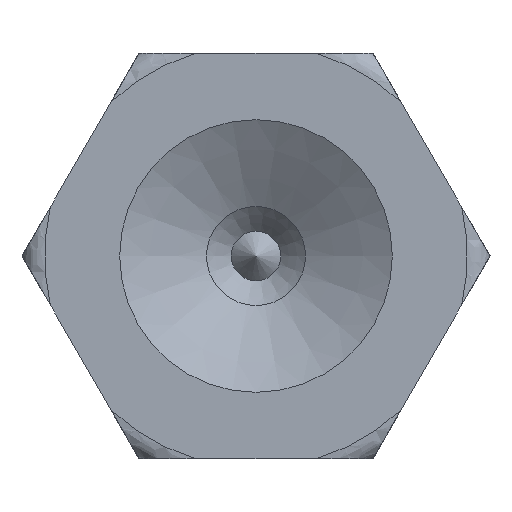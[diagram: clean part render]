
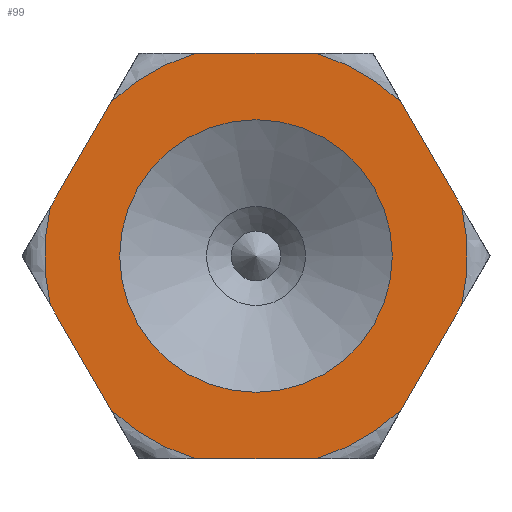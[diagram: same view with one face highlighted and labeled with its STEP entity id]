
A CAD part, left-side view. The second image highlights one B-rep face of the part: STEP entity #99.
In plain terms, the highlighted planar face has unit normal (-1, 0, 0).
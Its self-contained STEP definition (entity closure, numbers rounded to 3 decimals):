
#99 = ADVANCED_FACE( '', ( #174, #175 ), #176, .F. );
#174 = FACE_OUTER_BOUND( '', #260, .T. );
#175 = FACE_BOUND( '', #261, .T. );
#176 = PLANE( '', #262 );
#260 = EDGE_LOOP( '', ( #441, #442, #443, #444, #445, #446, #447, #448, #449, #450, #451, #452 ) );
#261 = EDGE_LOOP( '', ( #453 ) );
#262 = AXIS2_PLACEMENT_3D( '', #454, #455, #456 );
#441 = ORIENTED_EDGE( '', *, *, #587, .F. );
#442 = ORIENTED_EDGE( '', *, *, #588, .F. );
#443 = ORIENTED_EDGE( '', *, *, #537, .F. );
#444 = ORIENTED_EDGE( '', *, *, #559, .F. );
#445 = ORIENTED_EDGE( '', *, *, #589, .F. );
#446 = ORIENTED_EDGE( '', *, *, #554, .F. );
#447 = ORIENTED_EDGE( '', *, *, #545, .F. );
#448 = ORIENTED_EDGE( '', *, *, #555, .F. );
#449 = ORIENTED_EDGE( '', *, *, #552, .F. );
#450 = ORIENTED_EDGE( '', *, *, #590, .F. );
#451 = ORIENTED_EDGE( '', *, *, #570, .F. );
#452 = ORIENTED_EDGE( '', *, *, #591, .F. );
#453 = ORIENTED_EDGE( '', *, *, #557, .T. );
#454 = CARTESIAN_POINT( '', ( 0., 0., 0. ) );
#455 = DIRECTION( '', ( 1., 0., 0. ) );
#456 = DIRECTION( '', ( 0., 0., -1. ) );
#537 = EDGE_CURVE( '', #616, #604, #618, .T. );
#545 = EDGE_CURVE( '', #632, #620, #634, .T. );
#552 = EDGE_CURVE( '', #645, #635, #647, .T. );
#554 = EDGE_CURVE( '', #620, #648, #650, .T. );
#555 = EDGE_CURVE( '', #635, #632, #651, .T. );
#557 = EDGE_CURVE( '', #654, #654, #655, .T. );
#559 = EDGE_CURVE( '', #656, #616, #658, .T. );
#570 = EDGE_CURVE( '', #673, #676, #677, .T. );
#587 = EDGE_CURVE( '', #705, #706, #707, .T. );
#588 = EDGE_CURVE( '', #604, #705, #708, .T. );
#589 = EDGE_CURVE( '', #648, #656, #709, .T. );
#590 = EDGE_CURVE( '', #676, #645, #710, .T. );
#591 = EDGE_CURVE( '', #706, #673, #711, .T. );
#604 = VERTEX_POINT( '', #754 );
#616 = VERTEX_POINT( '', #808 );
#618 = LINE( '', #823, #824 );
#620 = VERTEX_POINT( '', #826 );
#632 = VERTEX_POINT( '', #880 );
#634 = LINE( '', #895, #896 );
#635 = VERTEX_POINT( '', #897 );
#645 = VERTEX_POINT( '', #948 );
#647 = LINE( '', #963, #964 );
#648 = VERTEX_POINT( '', #965 );
#650 = CIRCLE( '', #982, 14.089 );
#651 = CIRCLE( '', #983, 14.089 );
#654 = VERTEX_POINT( '', #986 );
#655 = CIRCLE( '', #987, 9.081 );
#656 = VERTEX_POINT( '', #988 );
#658 = CIRCLE( '', #1007, 14.089 );
#673 = VERTEX_POINT( '', #1025 );
#676 = VERTEX_POINT( '', #1043 );
#677 = LINE( '', #1044, #1045 );
#705 = VERTEX_POINT( '', #1106 );
#706 = VERTEX_POINT( '', #1107 );
#707 = LINE( '', #1108, #1109 );
#708 = CIRCLE( '', #1110, 14.089 );
#709 = LINE( '', #1111, #1112 );
#710 = CIRCLE( '', #1113, 14.089 );
#711 = CIRCLE( '', #1114, 14.089 );
#754 = CARTESIAN_POINT( '', ( 0., 13.706, -3.26 ) );
#808 = CARTESIAN_POINT( '', ( 0., 9.677, -10.24 ) );
#823 = CARTESIAN_POINT( '', ( 0., 7.794, -13.5 ) );
#824 = VECTOR( '', #1197, 1000. );
#826 = CARTESIAN_POINT( '', ( 0., -9.677, -10.24 ) );
#880 = CARTESIAN_POINT( '', ( 0., -13.706, -3.26 ) );
#895 = CARTESIAN_POINT( '', ( 0., -15.588, 0. ) );
#896 = VECTOR( '', #1201, 1000. );
#897 = CARTESIAN_POINT( '', ( 0., -13.706, 3.26 ) );
#948 = CARTESIAN_POINT( '', ( 0., -9.677, 10.24 ) );
#963 = CARTESIAN_POINT( '', ( 0., -7.794, 13.5 ) );
#964 = VECTOR( '', #1204, 1000. );
#965 = CARTESIAN_POINT( '', ( 0., -4.029, -13.5 ) );
#982 = AXIS2_PLACEMENT_3D( '', #1205, #1206, #1207 );
#983 = AXIS2_PLACEMENT_3D( '', #1208, #1209, #1210 );
#986 = CARTESIAN_POINT( '', ( 0., 9.081, 0. ) );
#987 = AXIS2_PLACEMENT_3D( '', #1214, #1215, #1216 );
#988 = CARTESIAN_POINT( '', ( 0., 4.029, -13.5 ) );
#1007 = AXIS2_PLACEMENT_3D( '', #1217, #1218, #1219 );
#1025 = CARTESIAN_POINT( '', ( 0., 4.029, 13.5 ) );
#1043 = CARTESIAN_POINT( '', ( 0., -4.029, 13.5 ) );
#1044 = CARTESIAN_POINT( '', ( 0., 7.794, 13.5 ) );
#1045 = VECTOR( '', #1241, 1000. );
#1106 = CARTESIAN_POINT( '', ( 0., 13.706, 3.26 ) );
#1107 = CARTESIAN_POINT( '', ( 0., 9.677, 10.24 ) );
#1108 = CARTESIAN_POINT( '', ( 0., 15.588, 0. ) );
#1109 = VECTOR( '', #1279, 1000. );
#1110 = AXIS2_PLACEMENT_3D( '', #1280, #1281, #1282 );
#1111 = CARTESIAN_POINT( '', ( 0., -7.794, -13.5 ) );
#1112 = VECTOR( '', #1283, 1000. );
#1113 = AXIS2_PLACEMENT_3D( '', #1284, #1285, #1286 );
#1114 = AXIS2_PLACEMENT_3D( '', #1287, #1288, #1289 );
#1197 = DIRECTION( '', ( 0., 0.5, 0.866 ) );
#1201 = DIRECTION( '', ( 0., 0.5, -0.866 ) );
#1204 = DIRECTION( '', ( 0., -0.5, -0.866 ) );
#1205 = CARTESIAN_POINT( '', ( 0., 0., 0. ) );
#1206 = DIRECTION( '', ( 1., 0., 0. ) );
#1207 = DIRECTION( '', ( 0., 0., -1. ) );
#1208 = CARTESIAN_POINT( '', ( 0., 0., 0. ) );
#1209 = DIRECTION( '', ( 1., 0., 0. ) );
#1210 = DIRECTION( '', ( 0., 0., -1. ) );
#1214 = CARTESIAN_POINT( '', ( 0., 0., 0. ) );
#1215 = DIRECTION( '', ( 1., 0., 0. ) );
#1216 = DIRECTION( '', ( 0., 1., 0. ) );
#1217 = CARTESIAN_POINT( '', ( 0., 0., 0. ) );
#1218 = DIRECTION( '', ( 1., 0., 0. ) );
#1219 = DIRECTION( '', ( 0., 0., -1. ) );
#1241 = DIRECTION( '', ( 0., -1., 0. ) );
#1279 = DIRECTION( '', ( 0., -0.5, 0.866 ) );
#1280 = CARTESIAN_POINT( '', ( 0., 0., 0. ) );
#1281 = DIRECTION( '', ( 1., 0., 0. ) );
#1282 = DIRECTION( '', ( 0., 0., -1. ) );
#1283 = DIRECTION( '', ( 0., 1., 0. ) );
#1284 = CARTESIAN_POINT( '', ( 0., 0., 0. ) );
#1285 = DIRECTION( '', ( 1., 0., 0. ) );
#1286 = DIRECTION( '', ( 0., 0., -1. ) );
#1287 = CARTESIAN_POINT( '', ( 0., 0., 0. ) );
#1288 = DIRECTION( '', ( 1., 0., 0. ) );
#1289 = DIRECTION( '', ( 0., 0., -1. ) );
